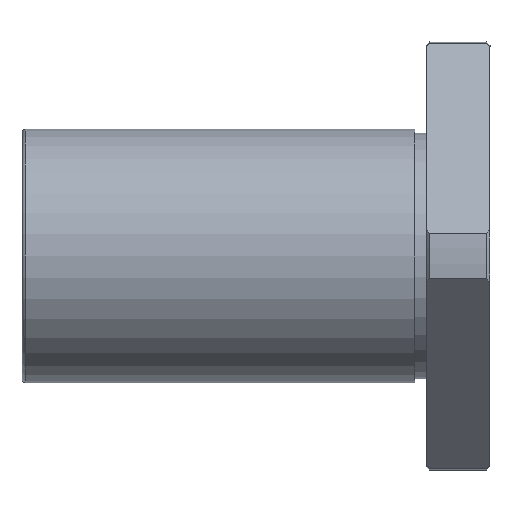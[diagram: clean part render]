
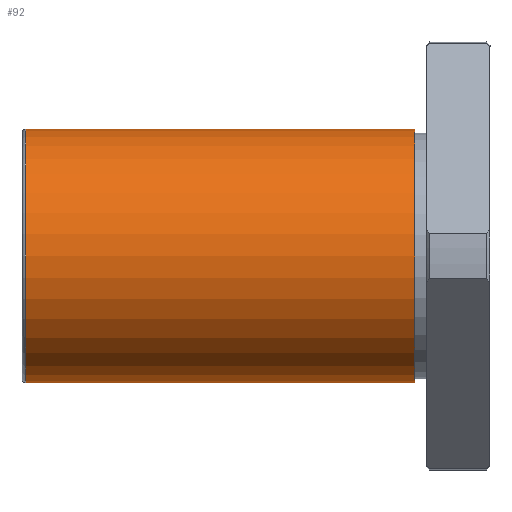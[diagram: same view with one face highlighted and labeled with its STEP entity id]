
A CAD part, front view. The second image highlights one B-rep face of the part: STEP entity #92.
In plain terms, the highlighted cylindrical face has radius 16 mm (diameter 32 mm), a full revolution.
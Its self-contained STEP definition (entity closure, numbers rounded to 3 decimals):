
#92=ADVANCED_FACE('',(#158,#159),#160,.T.);
#158=FACE_OUTER_BOUND('',#258,.T.);
#159=FACE_OUTER_BOUND('',#259,.T.);
#160=CYLINDRICAL_SURFACE('',#260,16.0);
#258=EDGE_LOOP('',(#438));
#259=EDGE_LOOP('',(#439));
#260=AXIS2_PLACEMENT_3D('',#440,#441,#442);
#438=ORIENTED_EDGE('',*,*,#618,.T.);
#439=ORIENTED_EDGE('',*,*,#576,.F.);
#440=CARTESIAN_POINT('',(-25.5,0.,0.0));
#441=DIRECTION('',(1.0,-0.0,0.));
#442=DIRECTION('',(0.0,1.0,0.0));
#576=EDGE_CURVE('',#661,#661,#662,.T.);
#618=EDGE_CURVE('',#735,#735,#736,.F.);
#661=VERTEX_POINT('',#791);
#662=CIRCLE('',#792,16.0);
#735=VERTEX_POINT('',#1009);
#736=CIRCLE('',#1010,16.0);
#791=CARTESIAN_POINT('',(-9.5,16.0,0.0));
#792=AXIS2_PLACEMENT_3D('',#1079,#1080,#1081);
#1009=CARTESIAN_POINT('',(-58.5,0.,16.0));
#1010=AXIS2_PLACEMENT_3D('',#1142,#1143,#1144);
#1079=CARTESIAN_POINT('',(-9.5,0.0,0.0));
#1080=DIRECTION('',(1.0,0.0,0.));
#1081=DIRECTION('',(0.0,1.0,0.0));
#1142=CARTESIAN_POINT('',(-58.5,0.,0.));
#1143=DIRECTION('',(-1.0,0.,0.));
#1144=DIRECTION('',(0.,0.0,1.0));
